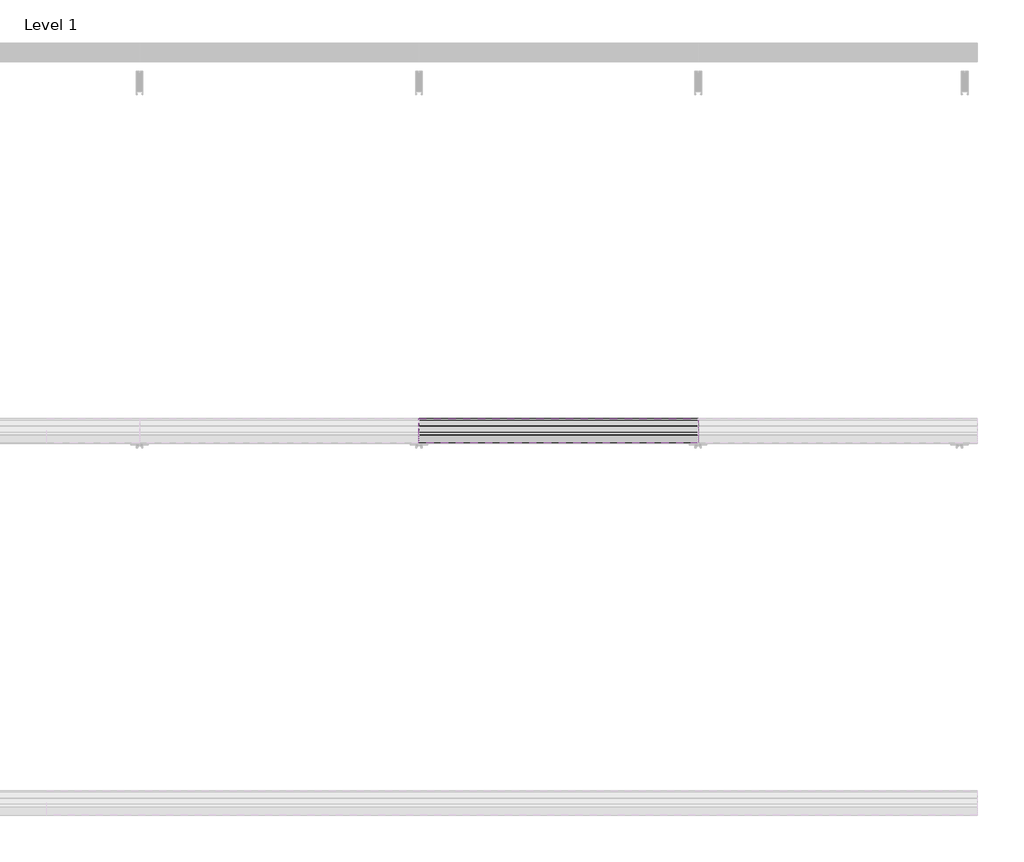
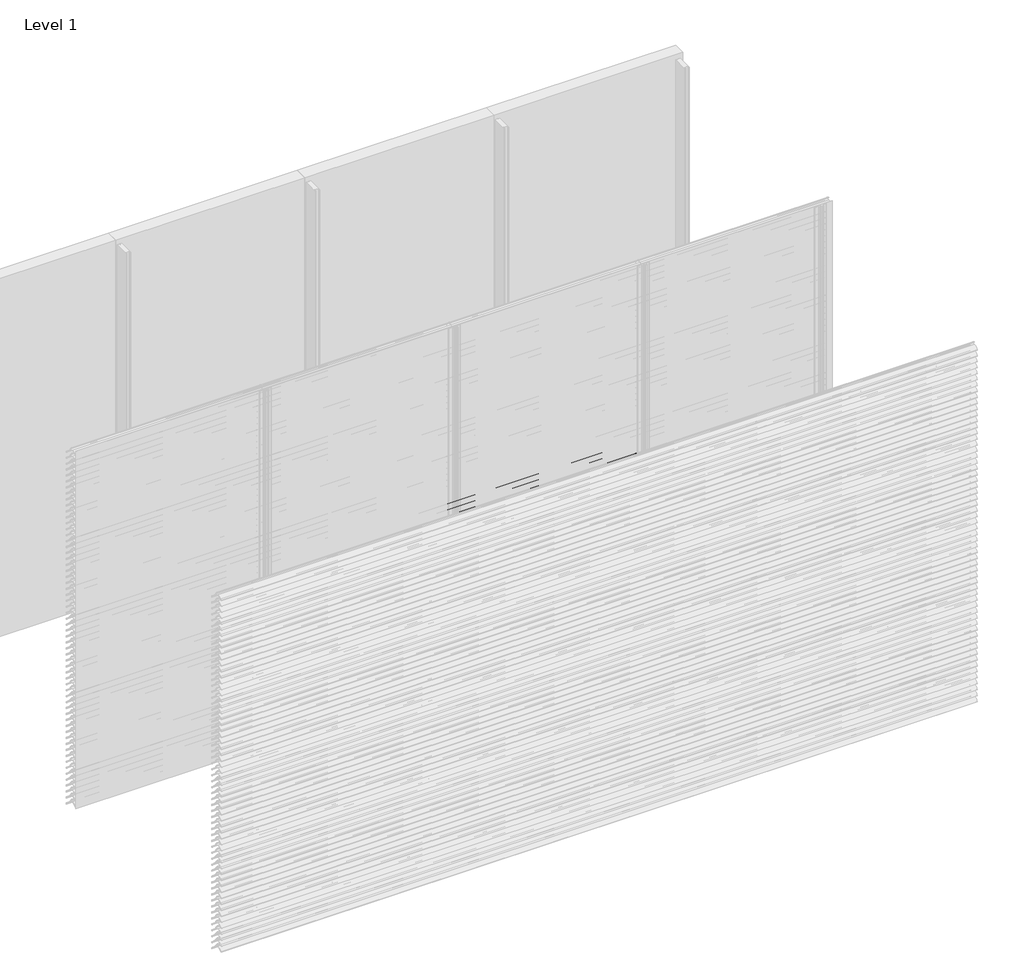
# One storey, part 15 of 173: 18 proxies.
"""IFC4 building model written with IfcOpenShell, lengths in millimetres."""

from ifc_helpers import new_model, si_unit, point, frame, frame_2d, origin, place, context, project, spatial, polyline, circle_curve, trimmed, segment, composite_curve, outline, extrude, element, save

model = new_model("IFC4")

# Units and contexts
model_context = context("Model", 3, world=origin())
ifc_project = project(units=[si_unit("LENGTHUNIT", "METRE", prefix="MILLI")], contexts=[model_context])

# Site, building, storey
site = spatial("IfcSite", under=ifc_project)
building = spatial("IfcBuilding", under=site)
storey = spatial("IfcBuildingStorey", under=building, Name="Level 1", Elevation=0.0)

# Proxies
placement = place(None, origin())
element("IfcBuildingElementProxy", 1, Name="Wall Sweeps", at=placement, inside=storey, context=model_context, shape_type="SweptSolid", body=[
    extrude(outline(composite_curve([segment(polyline([(-53998.0, 1459.1474905), (-53998.0, 1461.6227417)]), True, "CONTINUOUS"), segment(trimmed(circle_curve(frame_2d((-53951.2682172, 1416.2200208)), 65.1557103), [point((-53998.0, 1461.6227417))], [point((-53954.4014323, 1481.3003524))], False, "CARTESIAN"), True, "CONTINUOUS"), segment(polyline([(-53954.4014323, 1481.3003524), (-53934.8315836, 1481.3003524)]), True, "CONTINUOUS"), segment(trimmed(circle_curve(frame_2d((-53732.7329489, 1628.5533172)), 250.0545817), [point((-53934.8315836, 1481.3003524))], [point((-53941.4452143, 1490.8344583))], False, "CARTESIAN"), True, "CONTINUOUS"), segment(trimmed(circle_curve(frame_2d((-53953.2981792, 1485.1737835)), 13.1352966), [point((-53941.4452143, 1490.8344583))], [point((-53953.8171475, 1498.298824))], True, "CARTESIAN"), True, "CONTINUOUS"), segment(polyline([(-53953.8171475, 1498.298824), (-53953.8171475, 1500.0)]), True, "CONTINUOUS"), segment(trimmed(circle_curve(frame_2d((-53953.2981792, 1485.1737835)), 14.8352966), [point((-53953.8171475, 1500.0))], [point((-53939.9637661, 1491.6760487))], False, "CARTESIAN"), True, "CONTINUOUS"), segment(trimmed(circle_curve(frame_2d((-53732.7329489, 1628.5533172)), 248.3545817), [point((-53939.9637661, 1491.6760487))], [point((-53873.8787895, 1424.2059416))], True, "CARTESIAN"), True, "CONTINUOUS"), segment(trimmed(circle_curve(frame_2d((-53883.8147537, 1411.6649442)), 16.0), [point((-53873.8787895, 1424.2059416))], [point((-53867.8648347, 1410.4))], False, "CARTESIAN"), True, "CONTINUOUS"), segment(polyline([(-53867.8648347, 1410.4), (-53869.6712069, 1410.4)]), True, "CONTINUOUS"), segment(trimmed(circle_curve(frame_2d((-53883.8147537, 1411.6649442)), 14.2), [point((-53869.6712069, 1410.4))], [point((-53874.9518628, 1422.7594998))], True, "CARTESIAN"), True, "CONTINUOUS"), segment(trimmed(circle_curve(frame_2d((-53732.7329489, 1628.5533172)), 250.1545817), [point((-53874.9518628, 1422.7594998))], [point((-53933.7064024, 1479.6003524))], False, "CARTESIAN"), True, "CONTINUOUS"), segment(polyline([(-53933.7064024, 1479.6003524), (-53954.3602632, 1479.6003524)]), True, "CONTINUOUS"), segment(trimmed(circle_curve(frame_2d((-53951.2682172, 1416.2200208)), 63.4557103), [point((-53954.3602632, 1479.6003524))], [point((-53998.0, 1459.1474905))], True, "CARTESIAN"), True, "CONTINUOUS")], self_intersect=False)), frame((3000.0, 0.0, 0.0), z_axis=(1.0, 0.0, 0.0), x_axis=(0.0, 1.0, 0.0)), (0.0, 0.0, 1.0), 1500.0),
])
element("IfcBuildingElementProxy", 2, Name="Wall Sweeps", at=placement, inside=storey, context=model_context, shape_type="SweptSolid", body=[
    extrude(outline(composite_curve([segment(polyline([(-53998.0, 1409.1474905), (-53998.0, 1411.6227417)]), True, "CONTINUOUS"), segment(trimmed(circle_curve(frame_2d((-53951.2682172, 1366.2200208)), 65.1557103), [point((-53998.0, 1411.6227417))], [point((-53954.4014323, 1431.3003524))], False, "CARTESIAN"), True, "CONTINUOUS"), segment(polyline([(-53954.4014323, 1431.3003524), (-53934.8315836, 1431.3003524)]), True, "CONTINUOUS"), segment(trimmed(circle_curve(frame_2d((-53732.7329489, 1578.5533172)), 250.0545817), [point((-53934.8315836, 1431.3003524))], [point((-53941.4452143, 1440.8344583))], False, "CARTESIAN"), True, "CONTINUOUS"), segment(trimmed(circle_curve(frame_2d((-53953.2981792, 1435.1737835)), 13.1352966), [point((-53941.4452143, 1440.8344583))], [point((-53953.8171475, 1448.298824))], True, "CARTESIAN"), True, "CONTINUOUS"), segment(polyline([(-53953.8171475, 1448.298824), (-53953.8171475, 1450.0)]), True, "CONTINUOUS"), segment(trimmed(circle_curve(frame_2d((-53953.2981792, 1435.1737835)), 14.8352966), [point((-53953.8171475, 1450.0))], [point((-53939.9637661, 1441.6760487))], False, "CARTESIAN"), True, "CONTINUOUS"), segment(trimmed(circle_curve(frame_2d((-53732.7329489, 1578.5533172)), 248.3545817), [point((-53939.9637661, 1441.6760487))], [point((-53873.8787895, 1374.2059416))], True, "CARTESIAN"), True, "CONTINUOUS"), segment(trimmed(circle_curve(frame_2d((-53883.8147537, 1361.6649442)), 16.0), [point((-53873.8787895, 1374.2059416))], [point((-53867.8648347, 1360.4))], False, "CARTESIAN"), True, "CONTINUOUS"), segment(polyline([(-53867.8648347, 1360.4), (-53869.6712069, 1360.4)]), True, "CONTINUOUS"), segment(trimmed(circle_curve(frame_2d((-53883.8147537, 1361.6649442)), 14.2), [point((-53869.6712069, 1360.4))], [point((-53874.9518628, 1372.7594998))], True, "CARTESIAN"), True, "CONTINUOUS"), segment(trimmed(circle_curve(frame_2d((-53732.7329489, 1578.5533172)), 250.1545817), [point((-53874.9518628, 1372.7594998))], [point((-53933.7064024, 1429.6003524))], False, "CARTESIAN"), True, "CONTINUOUS"), segment(polyline([(-53933.7064024, 1429.6003524), (-53954.3602632, 1429.6003524)]), True, "CONTINUOUS"), segment(trimmed(circle_curve(frame_2d((-53951.2682172, 1366.2200208)), 63.4557103), [point((-53954.3602632, 1429.6003524))], [point((-53998.0, 1409.1474905))], True, "CARTESIAN"), True, "CONTINUOUS")], self_intersect=False)), frame((3000.0, 0.0, 0.0), z_axis=(1.0, 0.0, 0.0), x_axis=(0.0, 1.0, 0.0)), (0.0, 0.0, 1.0), 1500.0),
])
element("IfcBuildingElementProxy", 3, Name="Wall Sweeps", at=placement, inside=storey, context=model_context, shape_type="SweptSolid", body=[
    extrude(outline(composite_curve([segment(polyline([(-53998.0, 1359.1474905), (-53998.0, 1361.6227417)]), True, "CONTINUOUS"), segment(trimmed(circle_curve(frame_2d((-53951.2682172, 1316.2200208)), 65.1557103), [point((-53998.0, 1361.6227417))], [point((-53954.4014323, 1381.3003524))], False, "CARTESIAN"), True, "CONTINUOUS"), segment(polyline([(-53954.4014323, 1381.3003524), (-53934.8315836, 1381.3003524)]), True, "CONTINUOUS"), segment(trimmed(circle_curve(frame_2d((-53732.7329489, 1528.5533172)), 250.0545817), [point((-53934.8315836, 1381.3003524))], [point((-53941.4452143, 1390.8344583))], False, "CARTESIAN"), True, "CONTINUOUS"), segment(trimmed(circle_curve(frame_2d((-53953.2981792, 1385.1737835)), 13.1352966), [point((-53941.4452143, 1390.8344583))], [point((-53953.8171475, 1398.298824))], True, "CARTESIAN"), True, "CONTINUOUS"), segment(polyline([(-53953.8171475, 1398.298824), (-53953.8171475, 1400.0)]), True, "CONTINUOUS"), segment(trimmed(circle_curve(frame_2d((-53953.2981792, 1385.1737835)), 14.8352966), [point((-53953.8171475, 1400.0))], [point((-53939.9637661, 1391.6760487))], False, "CARTESIAN"), True, "CONTINUOUS"), segment(trimmed(circle_curve(frame_2d((-53732.7329489, 1528.5533172)), 248.3545817), [point((-53939.9637661, 1391.6760487))], [point((-53873.8787895, 1324.2059416))], True, "CARTESIAN"), True, "CONTINUOUS"), segment(trimmed(circle_curve(frame_2d((-53883.8147537, 1311.6649442)), 16.0), [point((-53873.8787895, 1324.2059416))], [point((-53867.8648347, 1310.4))], False, "CARTESIAN"), True, "CONTINUOUS"), segment(polyline([(-53867.8648347, 1310.4), (-53869.6712069, 1310.4)]), True, "CONTINUOUS"), segment(trimmed(circle_curve(frame_2d((-53883.8147537, 1311.6649442)), 14.2), [point((-53869.6712069, 1310.4))], [point((-53874.9518628, 1322.7594998))], True, "CARTESIAN"), True, "CONTINUOUS"), segment(trimmed(circle_curve(frame_2d((-53732.7329489, 1528.5533172)), 250.1545817), [point((-53874.9518628, 1322.7594998))], [point((-53933.7064024, 1379.6003524))], False, "CARTESIAN"), True, "CONTINUOUS"), segment(polyline([(-53933.7064024, 1379.6003524), (-53954.3602632, 1379.6003524)]), True, "CONTINUOUS"), segment(trimmed(circle_curve(frame_2d((-53951.2682172, 1316.2200208)), 63.4557103), [point((-53954.3602632, 1379.6003524))], [point((-53998.0, 1359.1474905))], True, "CARTESIAN"), True, "CONTINUOUS")], self_intersect=False)), frame((3000.0, 0.0, 0.0), z_axis=(1.0, 0.0, 0.0), x_axis=(0.0, 1.0, 0.0)), (0.0, 0.0, 1.0), 1500.0),
])
element("IfcBuildingElementProxy", 4, Name="Wall Sweeps", at=placement, inside=storey, context=model_context, shape_type="SweptSolid", body=[
    extrude(outline(composite_curve([segment(polyline([(-53998.0, 1309.1474905), (-53998.0, 1311.6227417)]), True, "CONTINUOUS"), segment(trimmed(circle_curve(frame_2d((-53951.2682172, 1266.2200208)), 65.1557103), [point((-53998.0, 1311.6227417))], [point((-53954.4014323, 1331.3003524))], False, "CARTESIAN"), True, "CONTINUOUS"), segment(polyline([(-53954.4014323, 1331.3003524), (-53934.8315836, 1331.3003524)]), True, "CONTINUOUS"), segment(trimmed(circle_curve(frame_2d((-53732.7329489, 1478.5533172)), 250.0545817), [point((-53934.8315836, 1331.3003524))], [point((-53941.4452143, 1340.8344583))], False, "CARTESIAN"), True, "CONTINUOUS"), segment(trimmed(circle_curve(frame_2d((-53953.2981792, 1335.1737835)), 13.1352966), [point((-53941.4452143, 1340.8344583))], [point((-53953.8171475, 1348.298824))], True, "CARTESIAN"), True, "CONTINUOUS"), segment(polyline([(-53953.8171475, 1348.298824), (-53953.8171475, 1350.0)]), True, "CONTINUOUS"), segment(trimmed(circle_curve(frame_2d((-53953.2981792, 1335.1737835)), 14.8352966), [point((-53953.8171475, 1350.0))], [point((-53939.9637661, 1341.6760487))], False, "CARTESIAN"), True, "CONTINUOUS"), segment(trimmed(circle_curve(frame_2d((-53732.7329489, 1478.5533172)), 248.3545817), [point((-53939.9637661, 1341.6760487))], [point((-53873.8787895, 1274.2059416))], True, "CARTESIAN"), True, "CONTINUOUS"), segment(trimmed(circle_curve(frame_2d((-53883.8147537, 1261.6649442)), 16.0), [point((-53873.8787895, 1274.2059416))], [point((-53867.8648347, 1260.4))], False, "CARTESIAN"), True, "CONTINUOUS"), segment(polyline([(-53867.8648347, 1260.4), (-53869.6712069, 1260.4)]), True, "CONTINUOUS"), segment(trimmed(circle_curve(frame_2d((-53883.8147537, 1261.6649442)), 14.2), [point((-53869.6712069, 1260.4))], [point((-53874.9518628, 1272.7594998))], True, "CARTESIAN"), True, "CONTINUOUS"), segment(trimmed(circle_curve(frame_2d((-53732.7329489, 1478.5533172)), 250.1545817), [point((-53874.9518628, 1272.7594998))], [point((-53933.7064024, 1329.6003524))], False, "CARTESIAN"), True, "CONTINUOUS"), segment(polyline([(-53933.7064024, 1329.6003524), (-53954.3602632, 1329.6003524)]), True, "CONTINUOUS"), segment(trimmed(circle_curve(frame_2d((-53951.2682172, 1266.2200208)), 63.4557103), [point((-53954.3602632, 1329.6003524))], [point((-53998.0, 1309.1474905))], True, "CARTESIAN"), True, "CONTINUOUS")], self_intersect=False)), frame((3000.0, 0.0, 0.0), z_axis=(1.0, 0.0, 0.0), x_axis=(0.0, 1.0, 0.0)), (0.0, 0.0, 1.0), 1500.0),
])
element("IfcBuildingElementProxy", 5, Name="Wall Sweeps", at=placement, inside=storey, context=model_context, shape_type="SweptSolid", body=[
    extrude(outline(composite_curve([segment(polyline([(-53998.0, 1259.1474905), (-53998.0, 1261.6227417)]), True, "CONTINUOUS"), segment(trimmed(circle_curve(frame_2d((-53951.2682172, 1216.2200208)), 65.1557103), [point((-53998.0, 1261.6227417))], [point((-53954.4014323, 1281.3003524))], False, "CARTESIAN"), True, "CONTINUOUS"), segment(polyline([(-53954.4014323, 1281.3003524), (-53934.8315836, 1281.3003524)]), True, "CONTINUOUS"), segment(trimmed(circle_curve(frame_2d((-53732.7329489, 1428.5533172)), 250.0545817), [point((-53934.8315836, 1281.3003524))], [point((-53941.4452143, 1290.8344583))], False, "CARTESIAN"), True, "CONTINUOUS"), segment(trimmed(circle_curve(frame_2d((-53953.2981792, 1285.1737835)), 13.1352966), [point((-53941.4452143, 1290.8344583))], [point((-53953.8171475, 1298.298824))], True, "CARTESIAN"), True, "CONTINUOUS"), segment(polyline([(-53953.8171475, 1298.298824), (-53953.8171475, 1300.0)]), True, "CONTINUOUS"), segment(trimmed(circle_curve(frame_2d((-53953.2981792, 1285.1737835)), 14.8352966), [point((-53953.8171475, 1300.0))], [point((-53939.9637661, 1291.6760487))], False, "CARTESIAN"), True, "CONTINUOUS"), segment(trimmed(circle_curve(frame_2d((-53732.7329489, 1428.5533172)), 248.3545817), [point((-53939.9637661, 1291.6760487))], [point((-53873.8787895, 1224.2059416))], True, "CARTESIAN"), True, "CONTINUOUS"), segment(trimmed(circle_curve(frame_2d((-53883.8147537, 1211.6649442)), 16.0), [point((-53873.8787895, 1224.2059416))], [point((-53867.8648347, 1210.4))], False, "CARTESIAN"), True, "CONTINUOUS"), segment(polyline([(-53867.8648347, 1210.4), (-53869.6712069, 1210.4)]), True, "CONTINUOUS"), segment(trimmed(circle_curve(frame_2d((-53883.8147537, 1211.6649442)), 14.2), [point((-53869.6712069, 1210.4))], [point((-53874.9518628, 1222.7594998))], True, "CARTESIAN"), True, "CONTINUOUS"), segment(trimmed(circle_curve(frame_2d((-53732.7329489, 1428.5533172)), 250.1545817), [point((-53874.9518628, 1222.7594998))], [point((-53933.7064024, 1279.6003524))], False, "CARTESIAN"), True, "CONTINUOUS"), segment(polyline([(-53933.7064024, 1279.6003524), (-53954.3602632, 1279.6003524)]), True, "CONTINUOUS"), segment(trimmed(circle_curve(frame_2d((-53951.2682172, 1216.2200208)), 63.4557103), [point((-53954.3602632, 1279.6003524))], [point((-53998.0, 1259.1474905))], True, "CARTESIAN"), True, "CONTINUOUS")], self_intersect=False)), frame((3000.0, 0.0, 0.0), z_axis=(1.0, 0.0, 0.0), x_axis=(0.0, 1.0, 0.0)), (0.0, 0.0, 1.0), 1500.0),
])
element("IfcBuildingElementProxy", 6, Name="Wall Sweeps", at=placement, inside=storey, context=model_context, shape_type="SweptSolid", body=[
    extrude(outline(composite_curve([segment(polyline([(-53998.0, 1209.1474905), (-53998.0, 1211.6227417)]), True, "CONTINUOUS"), segment(trimmed(circle_curve(frame_2d((-53951.2682172, 1166.2200208)), 65.1557103), [point((-53998.0, 1211.6227417))], [point((-53954.4014323, 1231.3003524))], False, "CARTESIAN"), True, "CONTINUOUS"), segment(polyline([(-53954.4014323, 1231.3003524), (-53934.8315836, 1231.3003524)]), True, "CONTINUOUS"), segment(trimmed(circle_curve(frame_2d((-53732.7329489, 1378.5533172)), 250.0545817), [point((-53934.8315836, 1231.3003524))], [point((-53941.4452143, 1240.8344583))], False, "CARTESIAN"), True, "CONTINUOUS"), segment(trimmed(circle_curve(frame_2d((-53953.2981792, 1235.1737835)), 13.1352966), [point((-53941.4452143, 1240.8344583))], [point((-53953.8171475, 1248.298824))], True, "CARTESIAN"), True, "CONTINUOUS"), segment(polyline([(-53953.8171475, 1248.298824), (-53953.8171475, 1250.0)]), True, "CONTINUOUS"), segment(trimmed(circle_curve(frame_2d((-53953.2981792, 1235.1737835)), 14.8352966), [point((-53953.8171475, 1250.0))], [point((-53939.9637661, 1241.6760487))], False, "CARTESIAN"), True, "CONTINUOUS"), segment(trimmed(circle_curve(frame_2d((-53732.7329489, 1378.5533172)), 248.3545817), [point((-53939.9637661, 1241.6760487))], [point((-53873.8787895, 1174.2059416))], True, "CARTESIAN"), True, "CONTINUOUS"), segment(trimmed(circle_curve(frame_2d((-53883.8147537, 1161.6649442)), 16.0), [point((-53873.8787895, 1174.2059416))], [point((-53867.8648347, 1160.4))], False, "CARTESIAN"), True, "CONTINUOUS"), segment(polyline([(-53867.8648347, 1160.4), (-53869.6712069, 1160.4)]), True, "CONTINUOUS"), segment(trimmed(circle_curve(frame_2d((-53883.8147537, 1161.6649442)), 14.2), [point((-53869.6712069, 1160.4))], [point((-53874.9518628, 1172.7594998))], True, "CARTESIAN"), True, "CONTINUOUS"), segment(trimmed(circle_curve(frame_2d((-53732.7329489, 1378.5533172)), 250.1545817), [point((-53874.9518628, 1172.7594998))], [point((-53933.7064024, 1229.6003524))], False, "CARTESIAN"), True, "CONTINUOUS"), segment(polyline([(-53933.7064024, 1229.6003524), (-53954.3602632, 1229.6003524)]), True, "CONTINUOUS"), segment(trimmed(circle_curve(frame_2d((-53951.2682172, 1166.2200208)), 63.4557103), [point((-53954.3602632, 1229.6003524))], [point((-53998.0, 1209.1474905))], True, "CARTESIAN"), True, "CONTINUOUS")], self_intersect=False)), frame((3000.0, 0.0, 0.0), z_axis=(1.0, 0.0, 0.0), x_axis=(0.0, 1.0, 0.0)), (0.0, 0.0, 1.0), 1500.0),
])
element("IfcBuildingElementProxy", 7, Name="Wall Sweeps", at=placement, inside=storey, context=model_context, shape_type="SweptSolid", body=[
    extrude(outline(composite_curve([segment(polyline([(-53998.0, 1159.1474905), (-53998.0, 1161.6227417)]), True, "CONTINUOUS"), segment(trimmed(circle_curve(frame_2d((-53951.2682172, 1116.2200208)), 65.1557103), [point((-53998.0, 1161.6227417))], [point((-53954.4014323, 1181.3003524))], False, "CARTESIAN"), True, "CONTINUOUS"), segment(polyline([(-53954.4014323, 1181.3003524), (-53934.8315836, 1181.3003524)]), True, "CONTINUOUS"), segment(trimmed(circle_curve(frame_2d((-53732.7329489, 1328.5533172)), 250.0545817), [point((-53934.8315836, 1181.3003524))], [point((-53941.4452143, 1190.8344583))], False, "CARTESIAN"), True, "CONTINUOUS"), segment(trimmed(circle_curve(frame_2d((-53953.2981792, 1185.1737835)), 13.1352966), [point((-53941.4452143, 1190.8344583))], [point((-53953.8171475, 1198.298824))], True, "CARTESIAN"), True, "CONTINUOUS"), segment(polyline([(-53953.8171475, 1198.298824), (-53953.8171475, 1200.0)]), True, "CONTINUOUS"), segment(trimmed(circle_curve(frame_2d((-53953.2981792, 1185.1737835)), 14.8352966), [point((-53953.8171475, 1200.0))], [point((-53939.9637661, 1191.6760487))], False, "CARTESIAN"), True, "CONTINUOUS"), segment(trimmed(circle_curve(frame_2d((-53732.7329489, 1328.5533172)), 248.3545817), [point((-53939.9637661, 1191.6760487))], [point((-53873.8787895, 1124.2059416))], True, "CARTESIAN"), True, "CONTINUOUS"), segment(trimmed(circle_curve(frame_2d((-53883.8147537, 1111.6649442)), 16.0), [point((-53873.8787895, 1124.2059416))], [point((-53867.8648347, 1110.4))], False, "CARTESIAN"), True, "CONTINUOUS"), segment(polyline([(-53867.8648347, 1110.4), (-53869.6712069, 1110.4)]), True, "CONTINUOUS"), segment(trimmed(circle_curve(frame_2d((-53883.8147537, 1111.6649442)), 14.2), [point((-53869.6712069, 1110.4))], [point((-53874.9518628, 1122.7594998))], True, "CARTESIAN"), True, "CONTINUOUS"), segment(trimmed(circle_curve(frame_2d((-53732.7329489, 1328.5533172)), 250.1545817), [point((-53874.9518628, 1122.7594998))], [point((-53933.7064024, 1179.6003524))], False, "CARTESIAN"), True, "CONTINUOUS"), segment(polyline([(-53933.7064024, 1179.6003524), (-53954.3602632, 1179.6003524)]), True, "CONTINUOUS"), segment(trimmed(circle_curve(frame_2d((-53951.2682172, 1116.2200208)), 63.4557103), [point((-53954.3602632, 1179.6003524))], [point((-53998.0, 1159.1474905))], True, "CARTESIAN"), True, "CONTINUOUS")], self_intersect=False)), frame((3000.0, 0.0, 0.0), z_axis=(1.0, 0.0, 0.0), x_axis=(0.0, 1.0, 0.0)), (0.0, 0.0, 1.0), 1500.0),
])
element("IfcBuildingElementProxy", 8, Name="Wall Sweeps", at=placement, inside=storey, context=model_context, shape_type="SweptSolid", body=[
    extrude(outline(composite_curve([segment(polyline([(-53998.0, 1109.1474905), (-53998.0, 1111.6227417)]), True, "CONTINUOUS"), segment(trimmed(circle_curve(frame_2d((-53951.2682172, 1066.2200208)), 65.1557103), [point((-53998.0, 1111.6227417))], [point((-53954.4014323, 1131.3003524))], False, "CARTESIAN"), True, "CONTINUOUS"), segment(polyline([(-53954.4014323, 1131.3003524), (-53934.8315836, 1131.3003524)]), True, "CONTINUOUS"), segment(trimmed(circle_curve(frame_2d((-53732.7329489, 1278.5533172)), 250.0545817), [point((-53934.8315836, 1131.3003524))], [point((-53941.4452143, 1140.8344583))], False, "CARTESIAN"), True, "CONTINUOUS"), segment(trimmed(circle_curve(frame_2d((-53953.2981792, 1135.1737835)), 13.1352966), [point((-53941.4452143, 1140.8344583))], [point((-53953.8171475, 1148.298824))], True, "CARTESIAN"), True, "CONTINUOUS"), segment(polyline([(-53953.8171475, 1148.298824), (-53953.8171475, 1150.0)]), True, "CONTINUOUS"), segment(trimmed(circle_curve(frame_2d((-53953.2981792, 1135.1737835)), 14.8352966), [point((-53953.8171475, 1150.0))], [point((-53939.9637661, 1141.6760487))], False, "CARTESIAN"), True, "CONTINUOUS"), segment(trimmed(circle_curve(frame_2d((-53732.7329489, 1278.5533172)), 248.3545817), [point((-53939.9637661, 1141.6760487))], [point((-53873.8787895, 1074.2059416))], True, "CARTESIAN"), True, "CONTINUOUS"), segment(trimmed(circle_curve(frame_2d((-53883.8147537, 1061.6649442)), 16.0), [point((-53873.8787895, 1074.2059416))], [point((-53867.8648347, 1060.4))], False, "CARTESIAN"), True, "CONTINUOUS"), segment(polyline([(-53867.8648347, 1060.4), (-53869.6712069, 1060.4)]), True, "CONTINUOUS"), segment(trimmed(circle_curve(frame_2d((-53883.8147537, 1061.6649442)), 14.2), [point((-53869.6712069, 1060.4))], [point((-53874.9518628, 1072.7594998))], True, "CARTESIAN"), True, "CONTINUOUS"), segment(trimmed(circle_curve(frame_2d((-53732.7329489, 1278.5533172)), 250.1545817), [point((-53874.9518628, 1072.7594998))], [point((-53933.7064024, 1129.6003524))], False, "CARTESIAN"), True, "CONTINUOUS"), segment(polyline([(-53933.7064024, 1129.6003524), (-53954.3602632, 1129.6003524)]), True, "CONTINUOUS"), segment(trimmed(circle_curve(frame_2d((-53951.2682172, 1066.2200208)), 63.4557103), [point((-53954.3602632, 1129.6003524))], [point((-53998.0, 1109.1474905))], True, "CARTESIAN"), True, "CONTINUOUS")], self_intersect=False)), frame((3000.0, 0.0, 0.0), z_axis=(1.0, 0.0, 0.0), x_axis=(0.0, 1.0, 0.0)), (0.0, 0.0, 1.0), 1500.0),
])
element("IfcBuildingElementProxy", 9, Name="Wall Sweeps", at=placement, inside=storey, context=model_context, shape_type="SweptSolid", body=[
    extrude(outline(composite_curve([segment(polyline([(-53998.0, 1059.1474905), (-53998.0, 1061.6227417)]), True, "CONTINUOUS"), segment(trimmed(circle_curve(frame_2d((-53951.2682172, 1016.2200208)), 65.1557103), [point((-53998.0, 1061.6227417))], [point((-53954.4014323, 1081.3003524))], False, "CARTESIAN"), True, "CONTINUOUS"), segment(polyline([(-53954.4014323, 1081.3003524), (-53934.8315836, 1081.3003524)]), True, "CONTINUOUS"), segment(trimmed(circle_curve(frame_2d((-53732.7329489, 1228.5533172)), 250.0545817), [point((-53934.8315836, 1081.3003524))], [point((-53941.4452143, 1090.8344583))], False, "CARTESIAN"), True, "CONTINUOUS"), segment(trimmed(circle_curve(frame_2d((-53953.2981792, 1085.1737835)), 13.1352966), [point((-53941.4452143, 1090.8344583))], [point((-53953.8171475, 1098.298824))], True, "CARTESIAN"), True, "CONTINUOUS"), segment(polyline([(-53953.8171475, 1098.298824), (-53953.8171475, 1100.0)]), True, "CONTINUOUS"), segment(trimmed(circle_curve(frame_2d((-53953.2981792, 1085.1737835)), 14.8352966), [point((-53953.8171475, 1100.0))], [point((-53939.9637661, 1091.6760487))], False, "CARTESIAN"), True, "CONTINUOUS"), segment(trimmed(circle_curve(frame_2d((-53732.7329489, 1228.5533172)), 248.3545817), [point((-53939.9637661, 1091.6760487))], [point((-53873.8787895, 1024.2059416))], True, "CARTESIAN"), True, "CONTINUOUS"), segment(trimmed(circle_curve(frame_2d((-53883.8147537, 1011.6649442)), 16.0), [point((-53873.8787895, 1024.2059416))], [point((-53867.8648347, 1010.4))], False, "CARTESIAN"), True, "CONTINUOUS"), segment(polyline([(-53867.8648347, 1010.4), (-53869.6712069, 1010.4)]), True, "CONTINUOUS"), segment(trimmed(circle_curve(frame_2d((-53883.8147537, 1011.6649442)), 14.2), [point((-53869.6712069, 1010.4))], [point((-53874.9518628, 1022.7594998))], True, "CARTESIAN"), True, "CONTINUOUS"), segment(trimmed(circle_curve(frame_2d((-53732.7329489, 1228.5533172)), 250.1545817), [point((-53874.9518628, 1022.7594998))], [point((-53933.7064024, 1079.6003524))], False, "CARTESIAN"), True, "CONTINUOUS"), segment(polyline([(-53933.7064024, 1079.6003524), (-53954.3602632, 1079.6003524)]), True, "CONTINUOUS"), segment(trimmed(circle_curve(frame_2d((-53951.2682172, 1016.2200208)), 63.4557103), [point((-53954.3602632, 1079.6003524))], [point((-53998.0, 1059.1474905))], True, "CARTESIAN"), True, "CONTINUOUS")], self_intersect=False)), frame((3000.0, 0.0, 0.0), z_axis=(1.0, 0.0, 0.0), x_axis=(0.0, 1.0, 0.0)), (0.0, 0.0, 1.0), 1500.0),
])
element("IfcBuildingElementProxy", 10, Name="Wall Sweeps", at=placement, inside=storey, context=model_context, shape_type="SweptSolid", body=[
    extrude(outline(composite_curve([segment(polyline([(-53998.0, 1009.1474905), (-53998.0, 1011.6227417)]), True, "CONTINUOUS"), segment(trimmed(circle_curve(frame_2d((-53951.2682172, 966.2200208)), 65.1557103), [point((-53998.0, 1011.6227417))], [point((-53954.4014323, 1031.3003524))], False, "CARTESIAN"), True, "CONTINUOUS"), segment(polyline([(-53954.4014323, 1031.3003524), (-53934.8315836, 1031.3003524)]), True, "CONTINUOUS"), segment(trimmed(circle_curve(frame_2d((-53732.7329489, 1178.5533172)), 250.0545817), [point((-53934.8315836, 1031.3003524))], [point((-53941.4452143, 1040.8344583))], False, "CARTESIAN"), True, "CONTINUOUS"), segment(trimmed(circle_curve(frame_2d((-53953.2981792, 1035.1737835)), 13.1352966), [point((-53941.4452143, 1040.8344583))], [point((-53953.8171475, 1048.298824))], True, "CARTESIAN"), True, "CONTINUOUS"), segment(polyline([(-53953.8171475, 1048.298824), (-53953.8171475, 1050.0)]), True, "CONTINUOUS"), segment(trimmed(circle_curve(frame_2d((-53953.2981792, 1035.1737835)), 14.8352966), [point((-53953.8171475, 1050.0))], [point((-53939.9637661, 1041.6760487))], False, "CARTESIAN"), True, "CONTINUOUS"), segment(trimmed(circle_curve(frame_2d((-53732.7329489, 1178.5533172)), 248.3545817), [point((-53939.9637661, 1041.6760487))], [point((-53873.8787895, 974.2059416))], True, "CARTESIAN"), True, "CONTINUOUS"), segment(trimmed(circle_curve(frame_2d((-53883.8147537, 961.6649442)), 16.0), [point((-53873.8787895, 974.2059416))], [point((-53867.8648347, 960.4))], False, "CARTESIAN"), True, "CONTINUOUS"), segment(polyline([(-53867.8648347, 960.4), (-53869.6712069, 960.4)]), True, "CONTINUOUS"), segment(trimmed(circle_curve(frame_2d((-53883.8147537, 961.6649442)), 14.2), [point((-53869.6712069, 960.4))], [point((-53874.9518628, 972.7594998))], True, "CARTESIAN"), True, "CONTINUOUS"), segment(trimmed(circle_curve(frame_2d((-53732.7329489, 1178.5533172)), 250.1545817), [point((-53874.9518628, 972.7594998))], [point((-53933.7064024, 1029.6003524))], False, "CARTESIAN"), True, "CONTINUOUS"), segment(polyline([(-53933.7064024, 1029.6003524), (-53954.3602632, 1029.6003524)]), True, "CONTINUOUS"), segment(trimmed(circle_curve(frame_2d((-53951.2682172, 966.2200208)), 63.4557103), [point((-53954.3602632, 1029.6003524))], [point((-53998.0, 1009.1474905))], True, "CARTESIAN"), True, "CONTINUOUS")], self_intersect=False)), frame((3000.0, 0.0, 0.0), z_axis=(1.0, 0.0, 0.0), x_axis=(0.0, 1.0, 0.0)), (0.0, 0.0, 1.0), 1500.0),
])
element("IfcBuildingElementProxy", 11, Name="Wall Sweeps", at=placement, inside=storey, context=model_context, shape_type="SweptSolid", body=[
    extrude(outline(composite_curve([segment(polyline([(-53998.0, 959.1474905), (-53998.0, 961.6227417)]), True, "CONTINUOUS"), segment(trimmed(circle_curve(frame_2d((-53951.2682172, 916.2200208)), 65.1557103), [point((-53998.0, 961.6227417))], [point((-53954.4014323, 981.3003524))], False, "CARTESIAN"), True, "CONTINUOUS"), segment(polyline([(-53954.4014323, 981.3003524), (-53934.8315836, 981.3003524)]), True, "CONTINUOUS"), segment(trimmed(circle_curve(frame_2d((-53732.7329489, 1128.5533172)), 250.0545817), [point((-53934.8315836, 981.3003524))], [point((-53941.4452143, 990.8344583))], False, "CARTESIAN"), True, "CONTINUOUS"), segment(trimmed(circle_curve(frame_2d((-53953.2981792, 985.1737835)), 13.1352966), [point((-53941.4452143, 990.8344583))], [point((-53953.8171475, 998.298824))], True, "CARTESIAN"), True, "CONTINUOUS"), segment(polyline([(-53953.8171475, 998.298824), (-53953.8171475, 1000.0)]), True, "CONTINUOUS"), segment(trimmed(circle_curve(frame_2d((-53953.2981792, 985.1737835)), 14.8352966), [point((-53953.8171475, 1000.0))], [point((-53939.9637661, 991.6760487))], False, "CARTESIAN"), True, "CONTINUOUS"), segment(trimmed(circle_curve(frame_2d((-53732.7329489, 1128.5533172)), 248.3545817), [point((-53939.9637661, 991.6760487))], [point((-53873.8787895, 924.2059416))], True, "CARTESIAN"), True, "CONTINUOUS"), segment(trimmed(circle_curve(frame_2d((-53883.8147537, 911.6649442)), 16.0), [point((-53873.8787895, 924.2059416))], [point((-53867.8648347, 910.4))], False, "CARTESIAN"), True, "CONTINUOUS"), segment(polyline([(-53867.8648347, 910.4), (-53869.6712069, 910.4)]), True, "CONTINUOUS"), segment(trimmed(circle_curve(frame_2d((-53883.8147537, 911.6649442)), 14.2), [point((-53869.6712069, 910.4))], [point((-53874.9518628, 922.7594998))], True, "CARTESIAN"), True, "CONTINUOUS"), segment(trimmed(circle_curve(frame_2d((-53732.7329489, 1128.5533172)), 250.1545817), [point((-53874.9518628, 922.7594998))], [point((-53933.7064024, 979.6003524))], False, "CARTESIAN"), True, "CONTINUOUS"), segment(polyline([(-53933.7064024, 979.6003524), (-53954.3602632, 979.6003524)]), True, "CONTINUOUS"), segment(trimmed(circle_curve(frame_2d((-53951.2682172, 916.2200208)), 63.4557103), [point((-53954.3602632, 979.6003524))], [point((-53998.0, 959.1474905))], True, "CARTESIAN"), True, "CONTINUOUS")], self_intersect=False)), frame((3000.0, 0.0, 0.0), z_axis=(1.0, 0.0, 0.0), x_axis=(0.0, 1.0, 0.0)), (0.0, 0.0, 1.0), 1500.0),
])
element("IfcBuildingElementProxy", 12, Name="Wall Sweeps", at=placement, inside=storey, context=model_context, shape_type="SweptSolid", body=[
    extrude(outline(composite_curve([segment(polyline([(-53998.0, 909.1474905), (-53998.0, 911.6227417)]), True, "CONTINUOUS"), segment(trimmed(circle_curve(frame_2d((-53951.2682172, 866.2200208)), 65.1557103), [point((-53998.0, 911.6227417))], [point((-53954.4014323, 931.3003524))], False, "CARTESIAN"), True, "CONTINUOUS"), segment(polyline([(-53954.4014323, 931.3003524), (-53934.8315836, 931.3003524)]), True, "CONTINUOUS"), segment(trimmed(circle_curve(frame_2d((-53732.7329489, 1078.5533172)), 250.0545817), [point((-53934.8315836, 931.3003524))], [point((-53941.4452143, 940.8344583))], False, "CARTESIAN"), True, "CONTINUOUS"), segment(trimmed(circle_curve(frame_2d((-53953.2981792, 935.1737835)), 13.1352966), [point((-53941.4452143, 940.8344583))], [point((-53953.8171475, 948.298824))], True, "CARTESIAN"), True, "CONTINUOUS"), segment(polyline([(-53953.8171475, 948.298824), (-53953.8171475, 950.0)]), True, "CONTINUOUS"), segment(trimmed(circle_curve(frame_2d((-53953.2981792, 935.1737835)), 14.8352966), [point((-53953.8171475, 950.0))], [point((-53939.9637661, 941.6760487))], False, "CARTESIAN"), True, "CONTINUOUS"), segment(trimmed(circle_curve(frame_2d((-53732.7329489, 1078.5533172)), 248.3545817), [point((-53939.9637661, 941.6760487))], [point((-53873.8787895, 874.2059416))], True, "CARTESIAN"), True, "CONTINUOUS"), segment(trimmed(circle_curve(frame_2d((-53883.8147537, 861.6649442)), 16.0), [point((-53873.8787895, 874.2059416))], [point((-53867.8648347, 860.4))], False, "CARTESIAN"), True, "CONTINUOUS"), segment(polyline([(-53867.8648347, 860.4), (-53869.6712069, 860.4)]), True, "CONTINUOUS"), segment(trimmed(circle_curve(frame_2d((-53883.8147537, 861.6649442)), 14.2), [point((-53869.6712069, 860.4))], [point((-53874.9518628, 872.7594998))], True, "CARTESIAN"), True, "CONTINUOUS"), segment(trimmed(circle_curve(frame_2d((-53732.7329489, 1078.5533172)), 250.1545817), [point((-53874.9518628, 872.7594998))], [point((-53933.7064024, 929.6003524))], False, "CARTESIAN"), True, "CONTINUOUS"), segment(polyline([(-53933.7064024, 929.6003524), (-53954.3602632, 929.6003524)]), True, "CONTINUOUS"), segment(trimmed(circle_curve(frame_2d((-53951.2682172, 866.2200208)), 63.4557103), [point((-53954.3602632, 929.6003524))], [point((-53998.0, 909.1474905))], True, "CARTESIAN"), True, "CONTINUOUS")], self_intersect=False)), frame((3000.0, 0.0, 0.0), z_axis=(1.0, 0.0, 0.0), x_axis=(0.0, 1.0, 0.0)), (0.0, 0.0, 1.0), 1500.0),
])
element("IfcBuildingElementProxy", 13, Name="Wall Sweeps", at=placement, inside=storey, context=model_context, shape_type="SweptSolid", body=[
    extrude(outline(composite_curve([segment(polyline([(-53998.0, 859.1474905), (-53998.0, 861.6227417)]), True, "CONTINUOUS"), segment(trimmed(circle_curve(frame_2d((-53951.2682172, 816.2200208)), 65.1557103), [point((-53998.0, 861.6227417))], [point((-53954.4014323, 881.3003524))], False, "CARTESIAN"), True, "CONTINUOUS"), segment(polyline([(-53954.4014323, 881.3003524), (-53934.8315836, 881.3003524)]), True, "CONTINUOUS"), segment(trimmed(circle_curve(frame_2d((-53732.7329489, 1028.5533172)), 250.0545817), [point((-53934.8315836, 881.3003524))], [point((-53941.4452143, 890.8344583))], False, "CARTESIAN"), True, "CONTINUOUS"), segment(trimmed(circle_curve(frame_2d((-53953.2981792, 885.1737835)), 13.1352966), [point((-53941.4452143, 890.8344583))], [point((-53953.8171475, 898.298824))], True, "CARTESIAN"), True, "CONTINUOUS"), segment(polyline([(-53953.8171475, 898.298824), (-53953.8171475, 900.0)]), True, "CONTINUOUS"), segment(trimmed(circle_curve(frame_2d((-53953.2981792, 885.1737835)), 14.8352966), [point((-53953.8171475, 900.0))], [point((-53939.9637661, 891.6760487))], False, "CARTESIAN"), True, "CONTINUOUS"), segment(trimmed(circle_curve(frame_2d((-53732.7329489, 1028.5533172)), 248.3545817), [point((-53939.9637661, 891.6760487))], [point((-53873.8787895, 824.2059416))], True, "CARTESIAN"), True, "CONTINUOUS"), segment(trimmed(circle_curve(frame_2d((-53883.8147537, 811.6649442)), 16.0), [point((-53873.8787895, 824.2059416))], [point((-53867.8648347, 810.4))], False, "CARTESIAN"), True, "CONTINUOUS"), segment(polyline([(-53867.8648347, 810.4), (-53869.6712069, 810.4)]), True, "CONTINUOUS"), segment(trimmed(circle_curve(frame_2d((-53883.8147537, 811.6649442)), 14.2), [point((-53869.6712069, 810.4))], [point((-53874.9518628, 822.7594998))], True, "CARTESIAN"), True, "CONTINUOUS"), segment(trimmed(circle_curve(frame_2d((-53732.7329489, 1028.5533172)), 250.1545817), [point((-53874.9518628, 822.7594998))], [point((-53933.7064024, 879.6003524))], False, "CARTESIAN"), True, "CONTINUOUS"), segment(polyline([(-53933.7064024, 879.6003524), (-53954.3602632, 879.6003524)]), True, "CONTINUOUS"), segment(trimmed(circle_curve(frame_2d((-53951.2682172, 816.2200208)), 63.4557103), [point((-53954.3602632, 879.6003524))], [point((-53998.0, 859.1474905))], True, "CARTESIAN"), True, "CONTINUOUS")], self_intersect=False)), frame((3000.0, 0.0, 0.0), z_axis=(1.0, 0.0, 0.0), x_axis=(0.0, 1.0, 0.0)), (0.0, 0.0, 1.0), 1500.0),
])
element("IfcBuildingElementProxy", 14, Name="Wall Sweeps", at=placement, inside=storey, context=model_context, shape_type="SweptSolid", body=[
    extrude(outline(composite_curve([segment(polyline([(-53998.0, 809.1474905), (-53998.0, 811.6227417)]), True, "CONTINUOUS"), segment(trimmed(circle_curve(frame_2d((-53951.2682172, 766.2200208)), 65.1557103), [point((-53998.0, 811.6227417))], [point((-53954.4014323, 831.3003524))], False, "CARTESIAN"), True, "CONTINUOUS"), segment(polyline([(-53954.4014323, 831.3003524), (-53934.8315836, 831.3003524)]), True, "CONTINUOUS"), segment(trimmed(circle_curve(frame_2d((-53732.7329489, 978.5533172)), 250.0545817), [point((-53934.8315836, 831.3003524))], [point((-53941.4452143, 840.8344583))], False, "CARTESIAN"), True, "CONTINUOUS"), segment(trimmed(circle_curve(frame_2d((-53953.2981792, 835.1737835)), 13.1352966), [point((-53941.4452143, 840.8344583))], [point((-53953.8171475, 848.298824))], True, "CARTESIAN"), True, "CONTINUOUS"), segment(polyline([(-53953.8171475, 848.298824), (-53953.8171475, 850.0)]), True, "CONTINUOUS"), segment(trimmed(circle_curve(frame_2d((-53953.2981792, 835.1737835)), 14.8352966), [point((-53953.8171475, 850.0))], [point((-53939.9637661, 841.6760487))], False, "CARTESIAN"), True, "CONTINUOUS"), segment(trimmed(circle_curve(frame_2d((-53732.7329489, 978.5533172)), 248.3545817), [point((-53939.9637661, 841.6760487))], [point((-53873.8787895, 774.2059416))], True, "CARTESIAN"), True, "CONTINUOUS"), segment(trimmed(circle_curve(frame_2d((-53883.8147537, 761.6649442)), 16.0), [point((-53873.8787895, 774.2059416))], [point((-53867.8648347, 760.4))], False, "CARTESIAN"), True, "CONTINUOUS"), segment(polyline([(-53867.8648347, 760.4), (-53869.6712069, 760.4)]), True, "CONTINUOUS"), segment(trimmed(circle_curve(frame_2d((-53883.8147537, 761.6649442)), 14.2), [point((-53869.6712069, 760.4))], [point((-53874.9518628, 772.7594998))], True, "CARTESIAN"), True, "CONTINUOUS"), segment(trimmed(circle_curve(frame_2d((-53732.7329489, 978.5533172)), 250.1545817), [point((-53874.9518628, 772.7594998))], [point((-53933.7064024, 829.6003524))], False, "CARTESIAN"), True, "CONTINUOUS"), segment(polyline([(-53933.7064024, 829.6003524), (-53954.3602632, 829.6003524)]), True, "CONTINUOUS"), segment(trimmed(circle_curve(frame_2d((-53951.2682172, 766.2200208)), 63.4557103), [point((-53954.3602632, 829.6003524))], [point((-53998.0, 809.1474905))], True, "CARTESIAN"), True, "CONTINUOUS")], self_intersect=False)), frame((3000.0, 0.0, 0.0), z_axis=(1.0, 0.0, 0.0), x_axis=(0.0, 1.0, 0.0)), (0.0, 0.0, 1.0), 1500.0),
])
element("IfcBuildingElementProxy", 15, Name="Wall Sweeps", at=placement, inside=storey, context=model_context, shape_type="SweptSolid", body=[
    extrude(outline(composite_curve([segment(polyline([(-53998.0, 759.1474905), (-53998.0, 761.6227417)]), True, "CONTINUOUS"), segment(trimmed(circle_curve(frame_2d((-53951.2682172, 716.2200208)), 65.1557103), [point((-53998.0, 761.6227417))], [point((-53954.4014323, 781.3003524))], False, "CARTESIAN"), True, "CONTINUOUS"), segment(polyline([(-53954.4014323, 781.3003524), (-53934.8315836, 781.3003524)]), True, "CONTINUOUS"), segment(trimmed(circle_curve(frame_2d((-53732.7329489, 928.5533172)), 250.0545817), [point((-53934.8315836, 781.3003524))], [point((-53941.4452143, 790.8344583))], False, "CARTESIAN"), True, "CONTINUOUS"), segment(trimmed(circle_curve(frame_2d((-53953.2981792, 785.1737835)), 13.1352966), [point((-53941.4452143, 790.8344583))], [point((-53953.8171475, 798.298824))], True, "CARTESIAN"), True, "CONTINUOUS"), segment(polyline([(-53953.8171475, 798.298824), (-53953.8171475, 800.0)]), True, "CONTINUOUS"), segment(trimmed(circle_curve(frame_2d((-53953.2981792, 785.1737835)), 14.8352966), [point((-53953.8171475, 800.0))], [point((-53939.9637661, 791.6760487))], False, "CARTESIAN"), True, "CONTINUOUS"), segment(trimmed(circle_curve(frame_2d((-53732.7329489, 928.5533172)), 248.3545817), [point((-53939.9637661, 791.6760487))], [point((-53873.8787895, 724.2059416))], True, "CARTESIAN"), True, "CONTINUOUS"), segment(trimmed(circle_curve(frame_2d((-53883.8147537, 711.6649442)), 16.0), [point((-53873.8787895, 724.2059416))], [point((-53867.8648347, 710.4))], False, "CARTESIAN"), True, "CONTINUOUS"), segment(polyline([(-53867.8648347, 710.4), (-53869.6712069, 710.4)]), True, "CONTINUOUS"), segment(trimmed(circle_curve(frame_2d((-53883.8147537, 711.6649442)), 14.2), [point((-53869.6712069, 710.4))], [point((-53874.9518628, 722.7594998))], True, "CARTESIAN"), True, "CONTINUOUS"), segment(trimmed(circle_curve(frame_2d((-53732.7329489, 928.5533172)), 250.1545817), [point((-53874.9518628, 722.7594998))], [point((-53933.7064024, 779.6003524))], False, "CARTESIAN"), True, "CONTINUOUS"), segment(polyline([(-53933.7064024, 779.6003524), (-53954.3602632, 779.6003524)]), True, "CONTINUOUS"), segment(trimmed(circle_curve(frame_2d((-53951.2682172, 716.2200208)), 63.4557103), [point((-53954.3602632, 779.6003524))], [point((-53998.0, 759.1474905))], True, "CARTESIAN"), True, "CONTINUOUS")], self_intersect=False)), frame((3000.0, 0.0, 0.0), z_axis=(1.0, 0.0, 0.0), x_axis=(0.0, 1.0, 0.0)), (0.0, 0.0, 1.0), 1500.0),
])
element("IfcBuildingElementProxy", 16, Name="Wall Sweeps", at=placement, inside=storey, context=model_context, shape_type="SweptSolid", body=[
    extrude(outline(composite_curve([segment(polyline([(-53998.0, 709.1474905), (-53998.0, 711.6227417)]), True, "CONTINUOUS"), segment(trimmed(circle_curve(frame_2d((-53951.2682172, 666.2200208)), 65.1557103), [point((-53998.0, 711.6227417))], [point((-53954.4014323, 731.3003524))], False, "CARTESIAN"), True, "CONTINUOUS"), segment(polyline([(-53954.4014323, 731.3003524), (-53934.8315836, 731.3003524)]), True, "CONTINUOUS"), segment(trimmed(circle_curve(frame_2d((-53732.7329489, 878.5533172)), 250.0545817), [point((-53934.8315836, 731.3003524))], [point((-53941.4452143, 740.8344583))], False, "CARTESIAN"), True, "CONTINUOUS"), segment(trimmed(circle_curve(frame_2d((-53953.2981792, 735.1737835)), 13.1352966), [point((-53941.4452143, 740.8344583))], [point((-53953.8171475, 748.298824))], True, "CARTESIAN"), True, "CONTINUOUS"), segment(polyline([(-53953.8171475, 748.298824), (-53953.8171475, 750.0)]), True, "CONTINUOUS"), segment(trimmed(circle_curve(frame_2d((-53953.2981792, 735.1737835)), 14.8352966), [point((-53953.8171475, 750.0))], [point((-53939.9637661, 741.6760487))], False, "CARTESIAN"), True, "CONTINUOUS"), segment(trimmed(circle_curve(frame_2d((-53732.7329489, 878.5533172)), 248.3545817), [point((-53939.9637661, 741.6760487))], [point((-53873.8787895, 674.2059416))], True, "CARTESIAN"), True, "CONTINUOUS"), segment(trimmed(circle_curve(frame_2d((-53883.8147537, 661.6649442)), 16.0), [point((-53873.8787895, 674.2059416))], [point((-53867.8648347, 660.4))], False, "CARTESIAN"), True, "CONTINUOUS"), segment(polyline([(-53867.8648347, 660.4), (-53869.6712069, 660.4)]), True, "CONTINUOUS"), segment(trimmed(circle_curve(frame_2d((-53883.8147537, 661.6649442)), 14.2), [point((-53869.6712069, 660.4))], [point((-53874.9518628, 672.7594998))], True, "CARTESIAN"), True, "CONTINUOUS"), segment(trimmed(circle_curve(frame_2d((-53732.7329489, 878.5533172)), 250.1545817), [point((-53874.9518628, 672.7594998))], [point((-53933.7064024, 729.6003524))], False, "CARTESIAN"), True, "CONTINUOUS"), segment(polyline([(-53933.7064024, 729.6003524), (-53954.3602632, 729.6003524)]), True, "CONTINUOUS"), segment(trimmed(circle_curve(frame_2d((-53951.2682172, 666.2200208)), 63.4557103), [point((-53954.3602632, 729.6003524))], [point((-53998.0, 709.1474905))], True, "CARTESIAN"), True, "CONTINUOUS")], self_intersect=False)), frame((3000.0, 0.0, 0.0), z_axis=(1.0, 0.0, 0.0), x_axis=(0.0, 1.0, 0.0)), (0.0, 0.0, 1.0), 1500.0),
])
element("IfcBuildingElementProxy", 17, Name="Wall Sweeps", at=placement, inside=storey, context=model_context, shape_type="SweptSolid", body=[
    extrude(outline(composite_curve([segment(polyline([(-53998.0, 659.1474905), (-53998.0, 661.6227417)]), True, "CONTINUOUS"), segment(trimmed(circle_curve(frame_2d((-53951.2682172, 616.2200208)), 65.1557103), [point((-53998.0, 661.6227417))], [point((-53954.4014323, 681.3003524))], False, "CARTESIAN"), True, "CONTINUOUS"), segment(polyline([(-53954.4014323, 681.3003524), (-53934.8315836, 681.3003524)]), True, "CONTINUOUS"), segment(trimmed(circle_curve(frame_2d((-53732.7329489, 828.5533172)), 250.0545817), [point((-53934.8315836, 681.3003524))], [point((-53941.4452143, 690.8344583))], False, "CARTESIAN"), True, "CONTINUOUS"), segment(trimmed(circle_curve(frame_2d((-53953.2981792, 685.1737835)), 13.1352966), [point((-53941.4452143, 690.8344583))], [point((-53953.8171475, 698.298824))], True, "CARTESIAN"), True, "CONTINUOUS"), segment(polyline([(-53953.8171475, 698.298824), (-53953.8171475, 700.0)]), True, "CONTINUOUS"), segment(trimmed(circle_curve(frame_2d((-53953.2981792, 685.1737835)), 14.8352966), [point((-53953.8171475, 700.0))], [point((-53939.9637661, 691.6760487))], False, "CARTESIAN"), True, "CONTINUOUS"), segment(trimmed(circle_curve(frame_2d((-53732.7329489, 828.5533172)), 248.3545817), [point((-53939.9637661, 691.6760487))], [point((-53873.8787895, 624.2059416))], True, "CARTESIAN"), True, "CONTINUOUS"), segment(trimmed(circle_curve(frame_2d((-53883.8147537, 611.6649442)), 16.0), [point((-53873.8787895, 624.2059416))], [point((-53867.8648347, 610.4))], False, "CARTESIAN"), True, "CONTINUOUS"), segment(polyline([(-53867.8648347, 610.4), (-53869.6712069, 610.4)]), True, "CONTINUOUS"), segment(trimmed(circle_curve(frame_2d((-53883.8147537, 611.6649442)), 14.2), [point((-53869.6712069, 610.4))], [point((-53874.9518628, 622.7594998))], True, "CARTESIAN"), True, "CONTINUOUS"), segment(trimmed(circle_curve(frame_2d((-53732.7329489, 828.5533172)), 250.1545817), [point((-53874.9518628, 622.7594998))], [point((-53933.7064024, 679.6003524))], False, "CARTESIAN"), True, "CONTINUOUS"), segment(polyline([(-53933.7064024, 679.6003524), (-53954.3602632, 679.6003524)]), True, "CONTINUOUS"), segment(trimmed(circle_curve(frame_2d((-53951.2682172, 616.2200208)), 63.4557103), [point((-53954.3602632, 679.6003524))], [point((-53998.0, 659.1474905))], True, "CARTESIAN"), True, "CONTINUOUS")], self_intersect=False)), frame((3000.0, 0.0, 0.0), z_axis=(1.0, 0.0, 0.0), x_axis=(0.0, 1.0, 0.0)), (0.0, 0.0, 1.0), 1500.0),
])
element("IfcBuildingElementProxy", 18, Name="Wall Sweeps", at=placement, inside=storey, context=model_context, shape_type="SweptSolid", body=[
    extrude(outline(composite_curve([segment(polyline([(-53998.0, 609.1474905), (-53998.0, 611.6227417)]), True, "CONTINUOUS"), segment(trimmed(circle_curve(frame_2d((-53951.2682172, 566.2200208)), 65.1557103), [point((-53998.0, 611.6227417))], [point((-53954.4014323, 631.3003524))], False, "CARTESIAN"), True, "CONTINUOUS"), segment(polyline([(-53954.4014323, 631.3003524), (-53934.8315836, 631.3003524)]), True, "CONTINUOUS"), segment(trimmed(circle_curve(frame_2d((-53732.7329489, 778.5533172)), 250.0545817), [point((-53934.8315836, 631.3003524))], [point((-53941.4452143, 640.8344583))], False, "CARTESIAN"), True, "CONTINUOUS"), segment(trimmed(circle_curve(frame_2d((-53953.2981792, 635.1737835)), 13.1352966), [point((-53941.4452143, 640.8344583))], [point((-53953.8171475, 648.298824))], True, "CARTESIAN"), True, "CONTINUOUS"), segment(polyline([(-53953.8171475, 648.298824), (-53953.8171475, 650.0)]), True, "CONTINUOUS"), segment(trimmed(circle_curve(frame_2d((-53953.2981792, 635.1737835)), 14.8352966), [point((-53953.8171475, 650.0))], [point((-53939.9637661, 641.6760487))], False, "CARTESIAN"), True, "CONTINUOUS"), segment(trimmed(circle_curve(frame_2d((-53732.7329489, 778.5533172)), 248.3545817), [point((-53939.9637661, 641.6760487))], [point((-53873.8787895, 574.2059416))], True, "CARTESIAN"), True, "CONTINUOUS"), segment(trimmed(circle_curve(frame_2d((-53883.8147537, 561.6649442)), 16.0), [point((-53873.8787895, 574.2059416))], [point((-53867.8648347, 560.4))], False, "CARTESIAN"), True, "CONTINUOUS"), segment(polyline([(-53867.8648347, 560.4), (-53869.6712069, 560.4)]), True, "CONTINUOUS"), segment(trimmed(circle_curve(frame_2d((-53883.8147537, 561.6649442)), 14.2), [point((-53869.6712069, 560.4))], [point((-53874.9518628, 572.7594998))], True, "CARTESIAN"), True, "CONTINUOUS"), segment(trimmed(circle_curve(frame_2d((-53732.7329489, 778.5533172)), 250.1545817), [point((-53874.9518628, 572.7594998))], [point((-53933.7064024, 629.6003524))], False, "CARTESIAN"), True, "CONTINUOUS"), segment(polyline([(-53933.7064024, 629.6003524), (-53954.3602632, 629.6003524)]), True, "CONTINUOUS"), segment(trimmed(circle_curve(frame_2d((-53951.2682172, 566.2200208)), 63.4557103), [point((-53954.3602632, 629.6003524))], [point((-53998.0, 609.1474905))], True, "CARTESIAN"), True, "CONTINUOUS")], self_intersect=False)), frame((3000.0, 0.0, 0.0), z_axis=(1.0, 0.0, 0.0), x_axis=(0.0, 1.0, 0.0)), (0.0, 0.0, 1.0), 1500.0),
])

save(model, "model.ifc")
